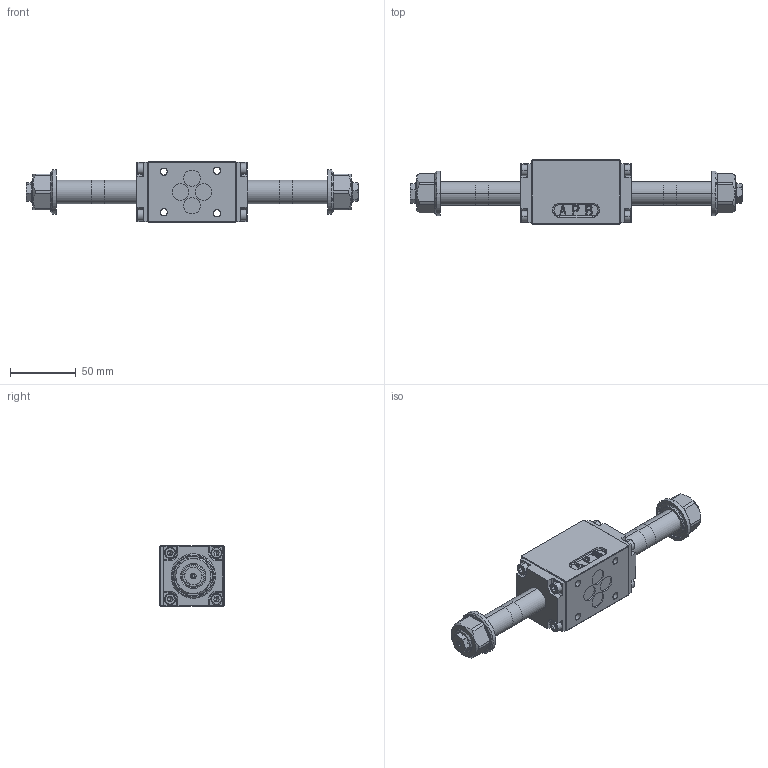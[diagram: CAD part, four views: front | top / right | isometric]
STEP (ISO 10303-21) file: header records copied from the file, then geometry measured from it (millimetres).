
FILE_DESCRIPTION (( 'STEP AP203' ), '1' );
FILE_NAME ('WDBFA06-4_3.step', '2013-07-25T14:15:34', ( 'Wandfluh AG' ), ( 'Wandfluh AG' ), 'SwSTEP 2.0', 'SolidWorks 2012', '' );
FILE_SCHEMA (( 'CONFIG_CONTROL_DESIGN' ));
Products named in the file (1): WDBFA06-4_3
Bounding box: 253 x 49 x 46 mm (x, y, z)
Volume: 223645.7 mm3; surface area: 67147.5 mm2
Topology: 29 solids, 29 shells, 1794 faces, 4622 edges, 2909 vertices
Faces by surface type: plane 912, cylinder 538, cone 142, torus 116, bspline 68, sphere 18
Entity records: 56729 total; most frequent: CARTESIAN_POINT 12212, DIRECTION 9710, ORIENTED_EDGE 9138, EDGE_CURVE 4569, AXIS2_PLACEMENT_3D 3582, VERTEX_POINT 2909, LINE 2546, VECTOR 2546
